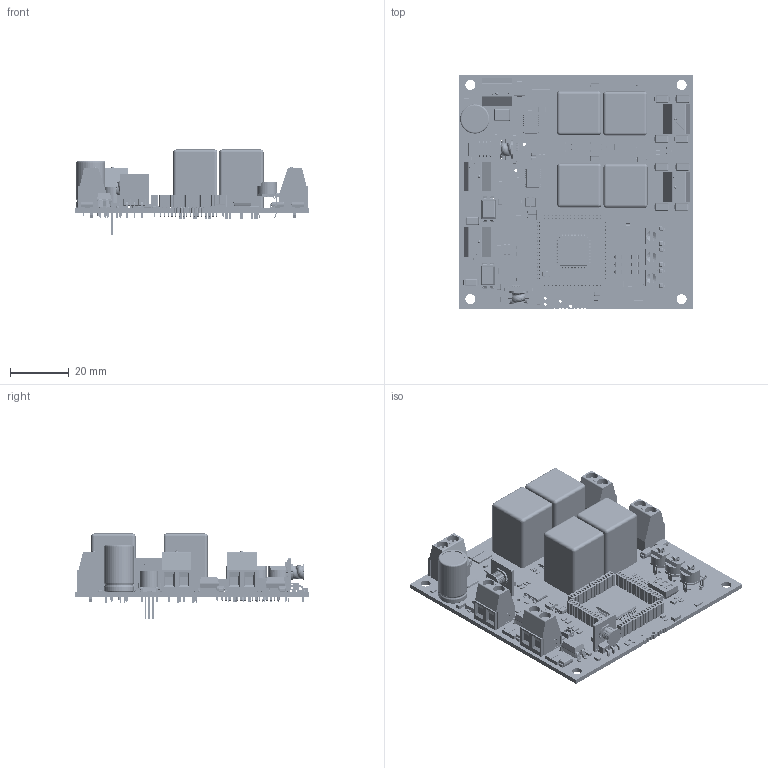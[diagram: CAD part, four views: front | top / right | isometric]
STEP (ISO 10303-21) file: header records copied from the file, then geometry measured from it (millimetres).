
FILE_DESCRIPTION(/* description */ (''),/* implementation_level */ '2;1');
FILE_NAME(/* name */ 'C:/Users/msarquella/Desktop/188000/CTLRA RA_C2MS V1_4.step',/* time_stamp */ '2022-09-30T09:58:37+02:00',/* author */ (''),/* organization */ (''),/* preprocessor_version */ 'ST-DEVELOPER v19',/* originating_system */ 'Autodesk Translation Framework v11.7.0.108',/* authorisation */ '');
FILE_SCHEMA (('AUTOMOTIVE_DESIGN { 1 0 10303 214 3 1 1 }'));
Products named in the file (1): as.f3d 
Bounding box: 80 x 80 x 28.98 mm (x, y, z)
Volume: 37565.5 mm3; surface area: 30239.8 mm2
Topology: 2 solids, 2 shells, 12593 faces, 35029 edges, 21711 vertices
Faces by surface type: plane 7790, cylinder 2994, bspline 930, sphere 719, torus 138, cone 22
Full cylindrical faces by diameter (mm): 0.488 x1, 0.6 x2, 0.609 x5, 0.8 x3, 0.9 x5, 1 x1, 1.02 x2, 1.1 x9, 1.12 x1, 1.2 x4, 1.4 x20, 3.4 x4, 3.783 x10, 4 x12, 6.8 x3
Entity records: 455509 total; most frequent: CARTESIAN_POINT 138510, ORIENTED_EDGE 68570, DIRECTION 61788, EDGE_CURVE 34285, LINE 25954, VECTOR 25954, VERTEX_POINT 21711, AXIS2_PLACEMENT_3D 17917
